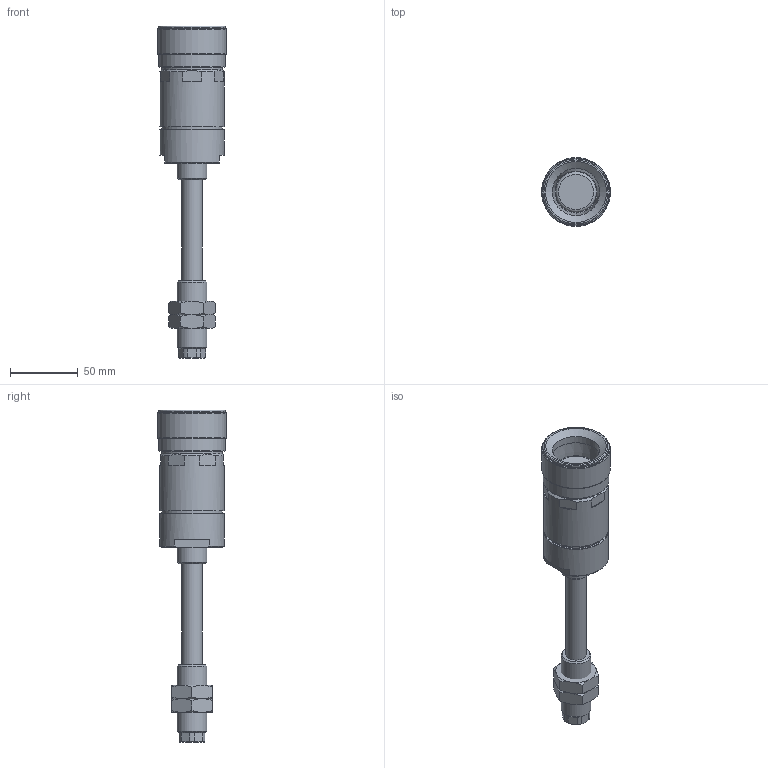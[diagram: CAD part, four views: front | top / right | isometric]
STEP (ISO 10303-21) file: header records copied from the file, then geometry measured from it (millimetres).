
FILE_DESCRIPTION(('STEP AP203'),'1');
FILE_NAME('SGC-31D-50-T.stp','2021-06-21T07:06:05',(' '),(' '),'Spatial InterOp 3D',' ',' ');
FILE_SCHEMA(('CONFIG_CONTROL_DESIGN'));
Length unit declared in the file: millimetre
Products named in the file (5): SGC-31D-50-T; SGC-31D-ZZ-T; 取付具; ナット
Assembly tree (4 placements, depth 2):
  SGC-31D-50-T
    SGC-31D-ZZ-T
    取付具
    ナット
    ナット
Bounding box: 51 x 51 x 245.7 mm (x, y, z)
Volume: 183918.5 mm3; surface area: 51673.8 mm2
Topology: 4 solids, 4 shells, 142 faces, 299 edges, 182 vertices
Faces by surface type: plane 59, cone 46, cylinder 29, torus 8
Full cylindrical faces by diameter (mm): 8 x1, 8.2 x1, 11.731 x1, 13 x1, 15 x3, 16 x2, 20.376 x2, 22 x2, 28.5 x1, 30 x1, 35 x1, 45 x2, 48 x2, 49 x2, 51 x1
Entity records: 4032 total; most frequent: CARTESIAN_POINT 975, DIRECTION 598, ORIENTED_EDGE 500, AXIS2_PLACEMENT_3D 271, EDGE_CURVE 250, EDGE_LOOP 210, VERTEX_POINT 178, FACE_OUTER_BOUND 173
